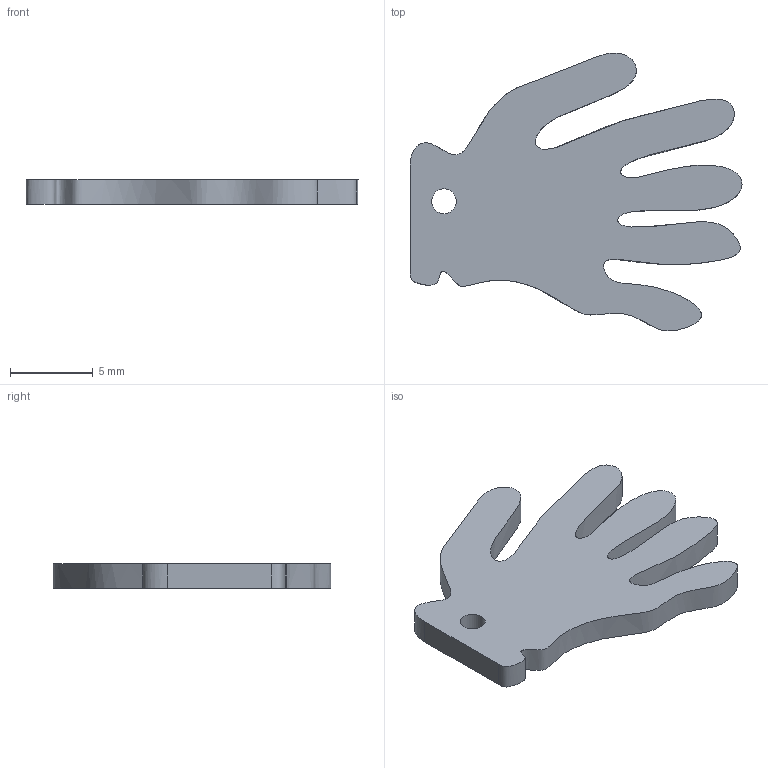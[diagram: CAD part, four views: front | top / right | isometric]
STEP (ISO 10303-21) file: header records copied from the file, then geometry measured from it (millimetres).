
FILE_DESCRIPTION(/* description */ ('','CAx-IF Rec.Pracs.---Representation and Presentation of Product Manufacturing Information (PMI)---4.0---2014-10-13'),/* implementation_level */ '2;1');
FILE_NAME(/* name */ 'Skelette_Haende.step',/* time_stamp */ '2025-01-30T08:51:14+01:00',/* author */ (''),/* organization */ (''),/* preprocessor_version */ 'ST-DEVELOPER v20',/* originating_system */ 'Autodesk Translation Framework v13.20.0.188',/* authorisation */ '');
FILE_SCHEMA (('AP242_MANAGED_MODEL_BASED_3D_ENGINEERING_MIM_LF { 1 0 10303 442 1 1 4 }'));
Length unit declared in the file: millimetre
Products named in the file (1): 01_Skelette_Haende
Bounding box: 20.01 x 16.75 x 1.5 mm (x, y, z)
Volume: 241.6 mm3; surface area: 567.8 mm2
Topology: 1 solids, 1 shells, 5 faces, 9 edges, 6 vertices
Faces by surface type: plane 3, cylinder 1, bspline 1
Full cylindrical faces by diameter (mm): 1.5 x1
Entity records: 1069 total; most frequent: CARTESIAN_POINT 938, DIRECTION 19, ORIENTED_EDGE 18, EDGE_CURVE 9, EDGE_LOOP 7, AXIS2_PLACEMENT_3D 7, VERTEX_POINT 6, FACE_OUTER_BOUND 5
